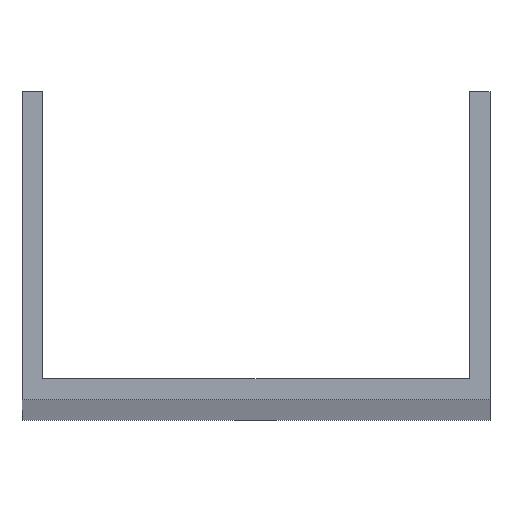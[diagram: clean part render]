
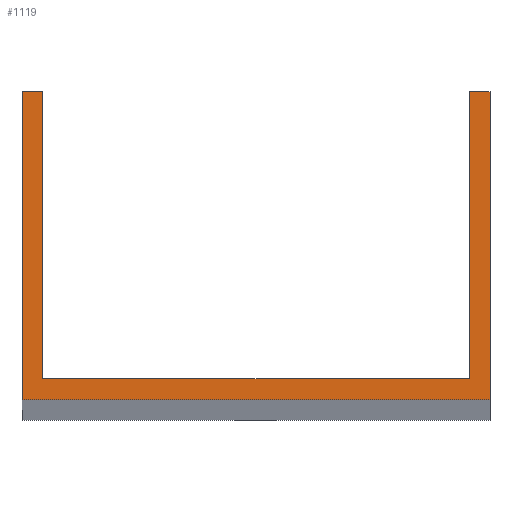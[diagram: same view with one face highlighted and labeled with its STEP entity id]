
A CAD part, top view. The second image highlights one B-rep face of the part: STEP entity #1119.
In plain terms, the highlighted planar face has unit normal (0, 0, 1).
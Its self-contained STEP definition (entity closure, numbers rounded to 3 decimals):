
#6 = ORIENTED_EDGE ( 'NONE', *, *, #308, .T. ) ;
#29 = DIRECTION ( 'NONE',  ( 1., 0., 0. ) ) ;
#32 = CARTESIAN_POINT ( 'NONE',  ( 39.5, 52., 1000. ) ) ;
#43 = DIRECTION ( 'NONE',  ( 0., -1., 0. ) ) ;
#77 = VERTEX_POINT ( 'NONE', #609 ) ;
#90 = VECTOR ( 'NONE', #773, 1000. ) ;
#107 = EDGE_CURVE ( 'NONE', #77, #470, #685, .T. ) ;
#111 = CARTESIAN_POINT ( 'NONE',  ( -39.5, 0., 1000. ) ) ;
#122 = DIRECTION ( 'NONE',  ( 1., 0., 0. ) ) ;
#150 = DIRECTION ( 'NONE',  ( 0., 1., 0. ) ) ;
#168 = ORIENTED_EDGE ( 'NONE', *, *, #778, .T. ) ;
#185 = VECTOR ( 'NONE', #186, 1000. ) ;
#186 = DIRECTION ( 'NONE',  ( 1., 0., 0. ) ) ;
#230 = ORIENTED_EDGE ( 'NONE', *, *, #107, .F. ) ;
#234 = LINE ( 'NONE', #589, #90 ) ;
#263 = DIRECTION ( 'NONE',  ( 0., -1., 0. ) ) ;
#280 = AXIS2_PLACEMENT_3D ( 'NONE', #920, #661, #122 ) ;
#298 = VECTOR ( 'NONE', #43, 1000. ) ;
#308 = EDGE_CURVE ( 'NONE', #77, #716, #740, .T. ) ;
#311 = PLANE ( 'NONE',  #280 ) ;
#324 = LINE ( 'NONE', #1110, #832 ) ;
#327 = EDGE_CURVE ( 'NONE', #470, #668, #634, .T. ) ;
#339 = EDGE_CURVE ( 'NONE', #668, #509, #324, .T. ) ;
#379 = CARTESIAN_POINT ( 'NONE',  ( 39.5, 0., 1000. ) ) ;
#400 = FACE_OUTER_BOUND ( 'NONE', #475, .T. ) ;
#404 = CARTESIAN_POINT ( 'NONE',  ( -39.5, 52., 1000. ) ) ;
#432 = CARTESIAN_POINT ( 'NONE',  ( 36., 52., 1000. ) ) ;
#448 = ORIENTED_EDGE ( 'NONE', *, *, #339, .F. ) ;
#470 = VERTEX_POINT ( 'NONE', #863 ) ;
#471 = EDGE_CURVE ( 'NONE', #691, #682, #234, .T. ) ;
#475 = EDGE_LOOP ( 'NONE', ( #230, #6, #168, #524, #693, #690, #448, #493 ) ) ;
#493 = ORIENTED_EDGE ( 'NONE', *, *, #327, .F. ) ;
#509 = VERTEX_POINT ( 'NONE', #432 ) ;
#519 = VERTEX_POINT ( 'NONE', #1045 ) ;
#524 = ORIENTED_EDGE ( 'NONE', *, *, #916, .T. ) ;
#589 = CARTESIAN_POINT ( 'NONE',  ( 39.5, 52., 1000. ) ) ;
#593 = EDGE_CURVE ( 'NONE', #682, #509, #683, .T. ) ;
#609 = CARTESIAN_POINT ( 'NONE',  ( -36., 52., 1000. ) ) ;
#614 = DIRECTION ( 'NONE',  ( -1., 0., 0. ) ) ;
#634 = LINE ( 'NONE', #733, #1009 ) ;
#661 = DIRECTION ( 'NONE',  ( 0., 0., 1. ) ) ;
#668 = VERTEX_POINT ( 'NONE', #738 ) ;
#682 = VERTEX_POINT ( 'NONE', #32 ) ;
#683 = LINE ( 'NONE', #1059, #689 ) ;
#685 = LINE ( 'NONE', #803, #909 ) ;
#689 = VECTOR ( 'NONE', #614, 1000. ) ;
#690 = ORIENTED_EDGE ( 'NONE', *, *, #593, .T. ) ;
#691 = VERTEX_POINT ( 'NONE', #379 ) ;
#693 = ORIENTED_EDGE ( 'NONE', *, *, #471, .T. ) ;
#716 = VERTEX_POINT ( 'NONE', #808 ) ;
#733 = CARTESIAN_POINT ( 'NONE',  ( -39.5, 3.5, 1000. ) ) ;
#738 = CARTESIAN_POINT ( 'NONE',  ( 36., 3.5, 1000. ) ) ;
#740 = LINE ( 'NONE', #404, #1081 ) ;
#773 = DIRECTION ( 'NONE',  ( 0., 1., 0. ) ) ;
#776 = LINE ( 'NONE', #1010, #298 ) ;
#778 = EDGE_CURVE ( 'NONE', #716, #519, #776, .T. ) ;
#803 = CARTESIAN_POINT ( 'NONE',  ( -36., 52., 1000. ) ) ;
#808 = CARTESIAN_POINT ( 'NONE',  ( -39.5, 52., 1000. ) ) ;
#832 = VECTOR ( 'NONE', #150, 1000. ) ;
#863 = CARTESIAN_POINT ( 'NONE',  ( -36., 3.5, 1000. ) ) ;
#902 = LINE ( 'NONE', #111, #185 ) ;
#909 = VECTOR ( 'NONE', #263, 1000. ) ;
#916 = EDGE_CURVE ( 'NONE', #519, #691, #902, .T. ) ;
#920 = CARTESIAN_POINT ( 'NONE',  ( 0., 0., 1000. ) ) ;
#993 = DIRECTION ( 'NONE',  ( -1., 0., 0. ) ) ;
#1009 = VECTOR ( 'NONE', #29, 1000. ) ;
#1010 = CARTESIAN_POINT ( 'NONE',  ( -39.5, 52., 1000. ) ) ;
#1045 = CARTESIAN_POINT ( 'NONE',  ( -39.5, 0., 1000. ) ) ;
#1059 = CARTESIAN_POINT ( 'NONE',  ( -39.5, 52., 1000. ) ) ;
#1081 = VECTOR ( 'NONE', #993, 1000. ) ;
#1110 = CARTESIAN_POINT ( 'NONE',  ( 36., 52., 1000. ) ) ;
#1119 = ADVANCED_FACE ( 'NONE', ( #400 ), #311, .T. ) ;
